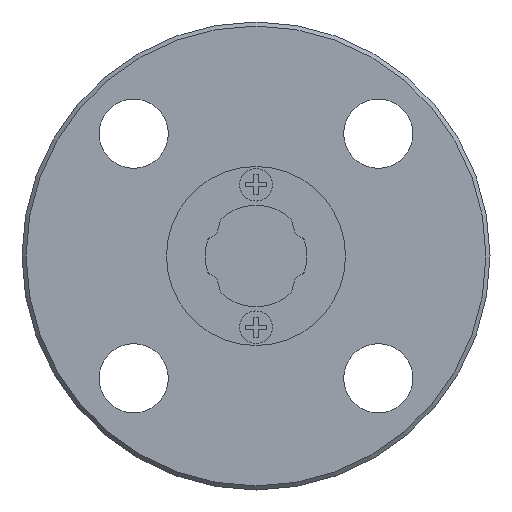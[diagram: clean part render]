
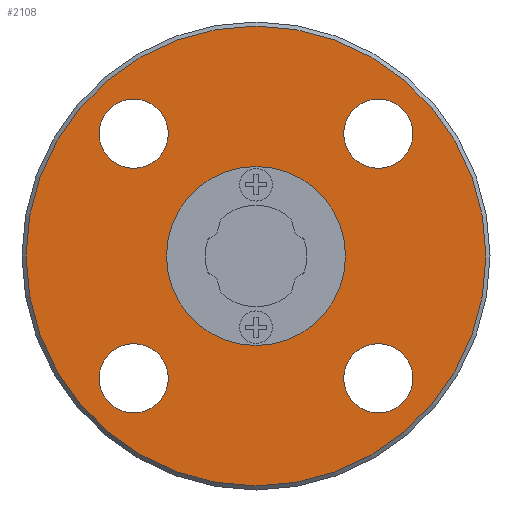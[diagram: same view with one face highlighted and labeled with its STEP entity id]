
A CAD part, left-side view. The second image highlights one B-rep face of the part: STEP entity #2108.
In plain terms, the highlighted planar face has unit normal (-1, 0, 0).
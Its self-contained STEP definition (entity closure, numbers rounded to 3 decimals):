
#48=PLANE('',#2330);
#703=ORIENTED_EDGE('',*,*,#1236,.F.);
#704=ORIENTED_EDGE('',*,*,#1237,.T.);
#705=ORIENTED_EDGE('',*,*,#1238,.T.);
#706=ORIENTED_EDGE('',*,*,#1239,.T.);
#707=ORIENTED_EDGE('',*,*,#1240,.T.);
#708=ORIENTED_EDGE('',*,*,#1235,.T.);
#1235=EDGE_CURVE('',#1512,#1512,#1681,.T.);
#1236=EDGE_CURVE('',#1513,#1513,#1682,.T.);
#1237=EDGE_CURVE('',#1514,#1514,#1683,.T.);
#1238=EDGE_CURVE('',#1515,#1515,#1684,.T.);
#1239=EDGE_CURVE('',#1516,#1516,#1685,.T.);
#1240=EDGE_CURVE('',#1517,#1517,#1686,.T.);
#1512=VERTEX_POINT('',#3356);
#1513=VERTEX_POINT('',#3359);
#1514=VERTEX_POINT('',#3361);
#1515=VERTEX_POINT('',#3363);
#1516=VERTEX_POINT('',#3365);
#1517=VERTEX_POINT('',#3367);
#1681=CIRCLE('',#2329,4.4);
#1682=CIRCLE('',#2331,11.3);
#1683=CIRCLE('',#2332,1.7);
#1684=CIRCLE('',#2333,1.7);
#1685=CIRCLE('',#2334,1.7);
#1686=CIRCLE('',#2335,1.7);
#1738=EDGE_LOOP('',(#703));
#1739=EDGE_LOOP('',(#704));
#1740=EDGE_LOOP('',(#705));
#1741=EDGE_LOOP('',(#706));
#1742=EDGE_LOOP('',(#707));
#1743=EDGE_LOOP('',(#708));
#1904=FACE_BOUND('',#1738,.T.);
#1905=FACE_BOUND('',#1739,.T.);
#1906=FACE_BOUND('',#1740,.T.);
#1907=FACE_BOUND('',#1741,.T.);
#1908=FACE_BOUND('',#1742,.T.);
#1909=FACE_BOUND('',#1743,.T.);
#2108=ADVANCED_FACE('',(#1904,#1905,#1906,#1907,#1908,#1909),#48,.F.);
#2329=AXIS2_PLACEMENT_3D('',#3355,#2708,#2709);
#2330=AXIS2_PLACEMENT_3D('',#3357,#2710,#2711);
#2331=AXIS2_PLACEMENT_3D('',#3358,#2712,#2713);
#2332=AXIS2_PLACEMENT_3D('',#3360,#2714,#2715);
#2333=AXIS2_PLACEMENT_3D('',#3362,#2716,#2717);
#2334=AXIS2_PLACEMENT_3D('',#3364,#2718,#2719);
#2335=AXIS2_PLACEMENT_3D('',#3366,#2720,#2721);
#2708=DIRECTION('',(1.,0.,0.));
#2709=DIRECTION('',(0.,0.,-1.));
#2710=DIRECTION('',(1.,0.,0.));
#2711=DIRECTION('',(0.,0.,-1.));
#2712=DIRECTION('',(1.,0.,0.));
#2713=DIRECTION('',(0.,0.,-1.));
#2714=DIRECTION('',(1.,0.,0.));
#2715=DIRECTION('',(0.,0.,-1.));
#2716=DIRECTION('',(1.,0.,0.));
#2717=DIRECTION('',(0.,0.,-1.));
#2718=DIRECTION('',(1.,0.,0.));
#2719=DIRECTION('',(0.,0.,-1.));
#2720=DIRECTION('',(1.,0.,0.));
#2721=DIRECTION('',(0.,0.,-1.));
#3355=CARTESIAN_POINT('',(-9.15,0.,0.));
#3356=CARTESIAN_POINT('',(-9.15,0.,-4.4));
#3357=CARTESIAN_POINT('',(-9.15,4.4,0.));
#3358=CARTESIAN_POINT('',(-9.15,0.,0.));
#3359=CARTESIAN_POINT('',(-9.15,0.,-11.3));
#3360=CARTESIAN_POINT('',(-9.15,-6.01,6.01));
#3361=CARTESIAN_POINT('',(-9.15,-6.01,4.31));
#3362=CARTESIAN_POINT('',(-9.15,-6.01,-6.01));
#3363=CARTESIAN_POINT('',(-9.15,-6.01,-7.71));
#3364=CARTESIAN_POINT('',(-9.15,6.01,-6.01));
#3365=CARTESIAN_POINT('',(-9.15,6.01,-7.71));
#3366=CARTESIAN_POINT('',(-9.15,6.01,6.01));
#3367=CARTESIAN_POINT('',(-9.15,6.01,4.31));
